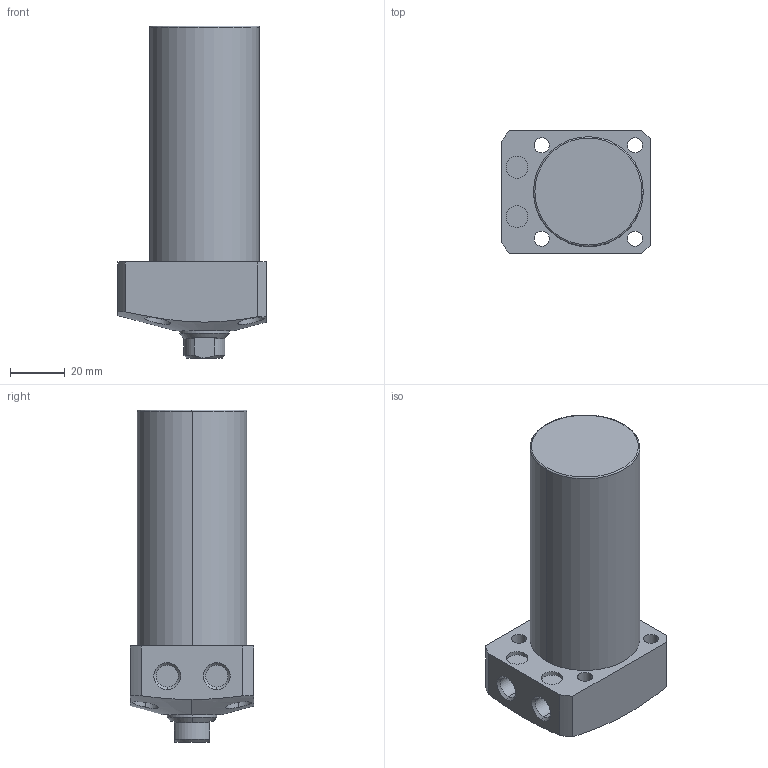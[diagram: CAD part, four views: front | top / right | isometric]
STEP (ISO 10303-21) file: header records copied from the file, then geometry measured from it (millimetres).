
FILE_DESCRIPTION (( 'STEP AP203' ), '1' );
FILE_NAME ('CLL-040CA-060.STEP', '2019-12-21T03:36:26', ( '' ), ( '' ), 'SwSTEP 2.0', 'SolidWorks 2015', '' );
FILE_SCHEMA (( 'CONFIG_CONTROL_DESIGN' ));
Length unit declared in the file: millimetre
Products named in the file (1): CLL-040CA-060
Bounding box: 54 x 45 x 121 mm (x, y, z)
Volume: 158509.1 mm3; surface area: 22909.4 mm2
Topology: 1 solids, 1 shells, 74 faces, 170 edges, 107 vertices
Faces by surface type: cylinder 35, plane 22, cone 15, torus 2
Entity records: 2505 total; most frequent: CARTESIAN_POINT 718, DIRECTION 374, ORIENTED_EDGE 336, EDGE_CURVE 168, AXIS2_PLACEMENT_3D 155, VERTEX_POINT 107, EDGE_LOOP 93, CIRCLE 80
